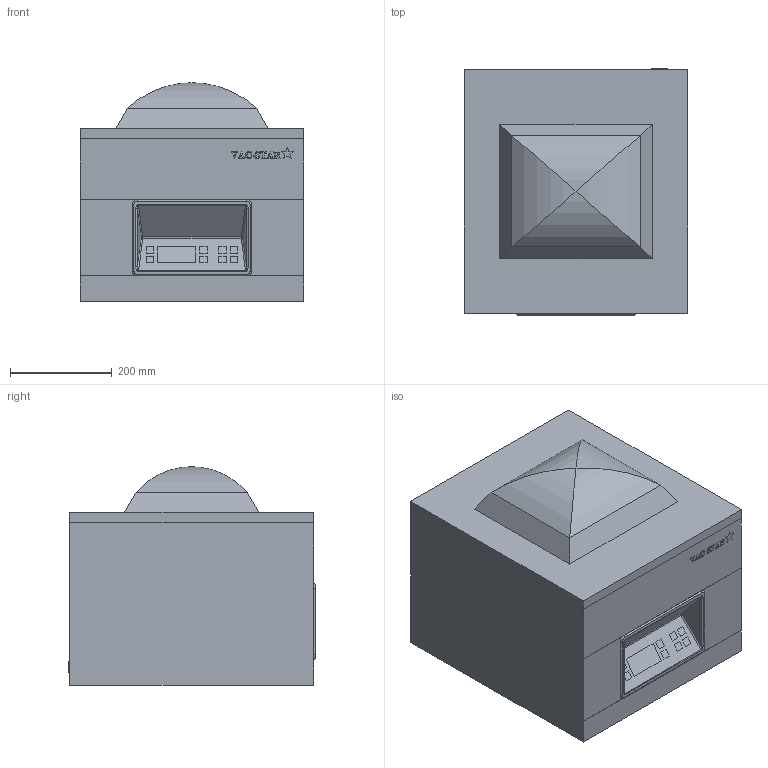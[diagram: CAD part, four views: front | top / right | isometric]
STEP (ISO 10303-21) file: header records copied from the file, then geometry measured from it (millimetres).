
FILE_DESCRIPTION(/* description */ ('Unknown'),/* implementation_level */ '2;1');
FILE_NAME(/* name */ 'C3D-215-AA',/* time_stamp */ '2021-10-22T09:05:43+02:00',/* author */ ('Unknown'),/* organization */ ('Unknown'),/* preprocessor_version */ 'ST-DEVELOPER v16.7',/* originating_system */ 'Solid Edge',/* authorisation */ 'Unknown');
FILE_SCHEMA (('AUTOMOTIVE_DESIGN {1 0 10303 214 3 1 1}'));
Length unit declared in the file: millimetre
Products named in the file (1): R-VAC-STAR-S215
Bounding box: 440 x 484.51 x 430 mm (x, y, z)
Volume: 60272193.8 mm3; surface area: 1676541.3 mm2
Topology: 2 solids, 2 shells, 246 faces, 623 edges, 406 vertices
Faces by surface type: plane 184, bspline 29, cylinder 27, torus 4, sphere 2
Entity records: 11214 total; most frequent: CARTESIAN_POINT 3933, ORIENTED_EDGE 1242, DIRECTION 913, EDGE_CURVE 621, VERTEX_POINT 406, LINE 369, VECTOR 369, EDGE_LOOP 273
